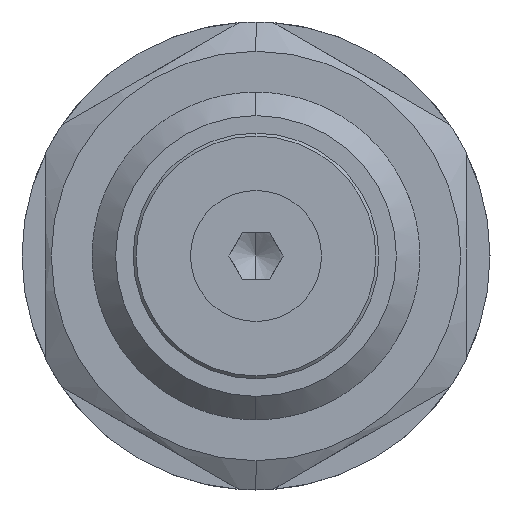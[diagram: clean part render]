
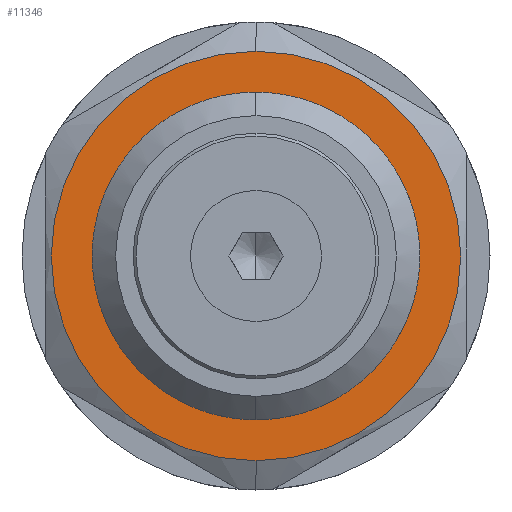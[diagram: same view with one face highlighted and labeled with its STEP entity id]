
A CAD part, left-side view. The second image highlights one B-rep face of the part: STEP entity #11346.
In plain terms, the highlighted planar face has unit normal (-1, 0, 0).
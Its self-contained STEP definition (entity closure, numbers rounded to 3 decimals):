
#538 = EDGE_CURVE ( 'NONE', #9364, #10628, #13465, .T. ) ;
#770 = CIRCLE ( 'NONE', #1266, 12.5 ) ;
#1118 = DIRECTION ( 'NONE',  ( -1., 0., 0. ) ) ;
#1241 = CIRCLE ( 'NONE', #6137, 17.5 ) ;
#1266 = AXIS2_PLACEMENT_3D ( 'NONE', #8086, #20925, #9935 ) ;
#2294 = AXIS2_PLACEMENT_3D ( 'NONE', #12118, #1118, #13978 ) ;
#4783 = AXIS2_PLACEMENT_3D ( 'NONE', #20087, #9073, #21934 ) ;
#5531 = EDGE_CURVE ( 'NONE', #10628, #9364, #1241, .T. ) ;
#5984 = DIRECTION ( 'NONE',  ( 1., 0., 0. ) ) ;
#6137 = AXIS2_PLACEMENT_3D ( 'NONE', #6138, #18950, #7970 ) ;
#6138 = CARTESIAN_POINT ( 'NONE',  ( 0., 0., 0. ) ) ;
#7970 = DIRECTION ( 'NONE',  ( 0., 0., -1. ) ) ;
#8086 = CARTESIAN_POINT ( 'NONE',  ( 0., 0., 0. ) ) ;
#9073 = DIRECTION ( 'NONE',  ( 1., 0., 0. ) ) ;
#9364 = VERTEX_POINT ( 'NONE', #15202 ) ;
#9935 = DIRECTION ( 'NONE',  ( 0., -1., 0. ) ) ;
#10054 = EDGE_CURVE ( 'NONE', #12348, #22321, #16613, .T. ) ;
#10628 = VERTEX_POINT ( 'NONE', #17723 ) ;
#11002 = AXIS2_PLACEMENT_3D ( 'NONE', #16973, #5984, #18810 ) ;
#11346 = ADVANCED_FACE ( 'NONE', ( #21813, #17508 ), #23677, .F. ) ;
#11937 = EDGE_CURVE ( 'NONE', #22321, #12348, #770, .T. ) ;
#12118 = CARTESIAN_POINT ( 'NONE',  ( 0., 0., 0. ) ) ;
#12348 = VERTEX_POINT ( 'NONE', #22039 ) ;
#13239 = CARTESIAN_POINT ( 'NONE',  ( 0., 12.5, 0. ) ) ;
#13465 = CIRCLE ( 'NONE', #11002, 17.5 ) ;
#13978 = DIRECTION ( 'NONE',  ( 0., -1., 0. ) ) ;
#15202 = CARTESIAN_POINT ( 'NONE',  ( 0., 0., 17.5 ) ) ;
#15943 = ORIENTED_EDGE ( 'NONE', *, *, #5531, .F. ) ;
#16613 = CIRCLE ( 'NONE', #2294, 12.5 ) ;
#16973 = CARTESIAN_POINT ( 'NONE',  ( 0., 0., 0. ) ) ;
#17160 = ORIENTED_EDGE ( 'NONE', *, *, #10054, .F. ) ;
#17508 = FACE_BOUND ( 'NONE', #18646, .T. ) ;
#17723 = CARTESIAN_POINT ( 'NONE',  ( 0., 0., -17.5 ) ) ;
#18646 = EDGE_LOOP ( 'NONE', ( #17160, #18863 ) ) ;
#18810 = DIRECTION ( 'NONE',  ( 0., 0., -1. ) ) ;
#18863 = ORIENTED_EDGE ( 'NONE', *, *, #11937, .F. ) ;
#18950 = DIRECTION ( 'NONE',  ( 1., 0., 0. ) ) ;
#20087 = CARTESIAN_POINT ( 'NONE',  ( 0., 0., 0. ) ) ;
#20413 = EDGE_LOOP ( 'NONE', ( #15943, #21974 ) ) ;
#20925 = DIRECTION ( 'NONE',  ( -1., 0., 0. ) ) ;
#21813 = FACE_OUTER_BOUND ( 'NONE', #20413, .T. ) ;
#21934 = DIRECTION ( 'NONE',  ( 0., 0., -1. ) ) ;
#21974 = ORIENTED_EDGE ( 'NONE', *, *, #538, .F. ) ;
#22039 = CARTESIAN_POINT ( 'NONE',  ( 0., -12.5, 0. ) ) ;
#22321 = VERTEX_POINT ( 'NONE', #13239 ) ;
#23677 = PLANE ( 'NONE',  #4783 ) ;
